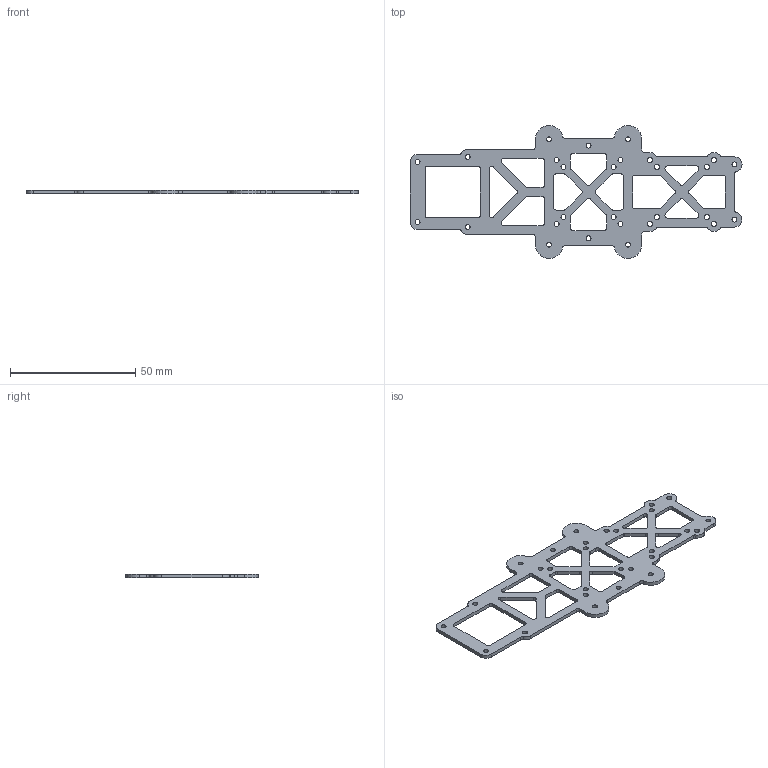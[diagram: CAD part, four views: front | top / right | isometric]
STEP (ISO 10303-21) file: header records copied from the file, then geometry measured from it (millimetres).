
FILE_DESCRIPTION(/* description */ ('','CAx-IF Rec.Pracs.---Representation and Presentation of Product Manufacturing Information (PMI)---4.0---2014-10-13'),/* implementation_level */ '2;1');
FILE_NAME(/* name */ 'GoFlyPro - 3.5Z - Baseplate-V1.step',/* time_stamp */ '2025-03-20T08:35:03+01:00',/* author */ (''),/* organization */ (''),/* preprocessor_version */ 'ST-DEVELOPER v20',/* originating_system */ 'Autodesk Translation Framework v13.20.0.188',/* authorisation */ '');
FILE_SCHEMA (('AP242_MANAGED_MODEL_BASED_3D_ENGINEERING_MIM_LF { 1 0 10303 442 1 1 4 }'));
Length unit declared in the file: millimetre
Products named in the file (1): GoFlyPro - 3.5Z - Baseplate-V1
Bounding box: 132.5 x 52.99 x 1.5 mm (x, y, z)
Volume: 4106.4 mm3; surface area: 7160.8 mm2
Topology: 1 solids, 1 shells, 182 faces, 540 edges, 360 vertices
Faces by surface type: cylinder 111, plane 71
Full cylindrical faces by diameter (mm): 2 x20, 2.1 x8
Entity records: 6379 total; most frequent: DIRECTION 1128, CARTESIAN_POINT 1083, ORIENTED_EDGE 1080, EDGE_CURVE 540, AXIS2_PLACEMENT_3D 405, VERTEX_POINT 360, LINE 318, VECTOR 318
